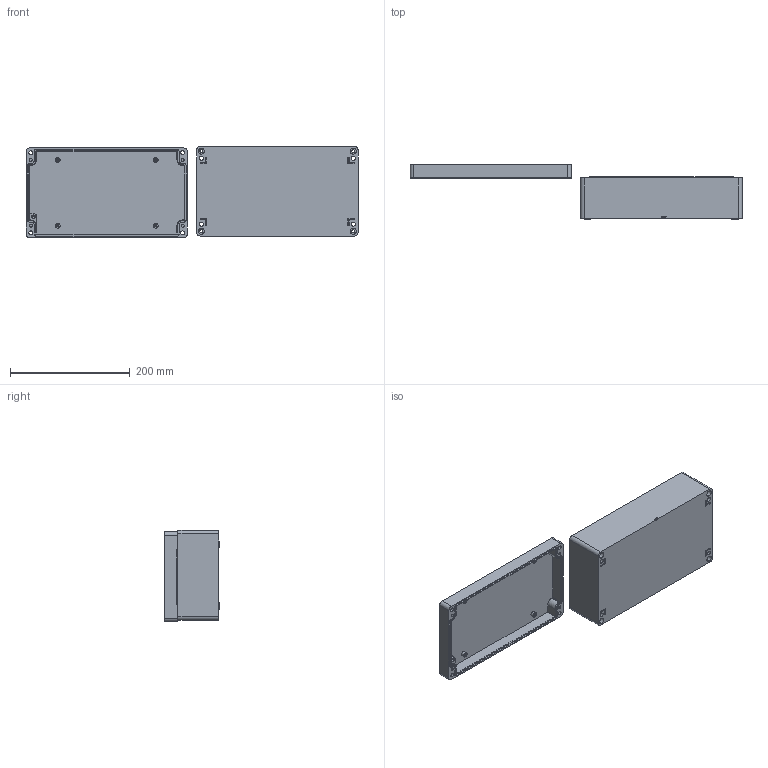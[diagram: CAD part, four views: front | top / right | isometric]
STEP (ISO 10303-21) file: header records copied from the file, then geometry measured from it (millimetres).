
FILE_DESCRIPTION (( 'STEP AP203' ), '1' );
FILE_NAME ('ZX-AL-152709_装配体.STEP', '2022-01-24T08:55:11', ( '微软用户' ), ( '微软中国' ), 'SwSTEP 2.0', 'SolidWorks 2020', '' );
FILE_SCHEMA (( 'CONFIG_CONTROL_DESIGN' ));
Length unit declared in the file: millimetre
Products named in the file (3): ZX-AL-152709_狟; ZX-AL-152709_蚾饜极; ZX-AL-152709_奻
Assembly tree (2 placements, depth 2):
  ZX-AL-152709_蚾饜极
    ZX-AL-152709_狟
    ZX-AL-152709_奻
Bounding box: 555.3 x 91 x 152.63 mm (x, y, z)
Volume: 609410 mm3; surface area: 330037.6 mm2
Topology: 2 solids, 2 shells, 737 faces, 1954 edges, 1261 vertices
Faces by surface type: plane 350, cylinder 196, bspline 123, cone 68
Entity records: 28555 total; most frequent: CARTESIAN_POINT 10586, ORIENTED_EDGE 3864, DIRECTION 3290, EDGE_CURVE 1932, VECTOR 1272, LINE 1272, VERTEX_POINT 1261, AXIS2_PLACEMENT_3D 1009
